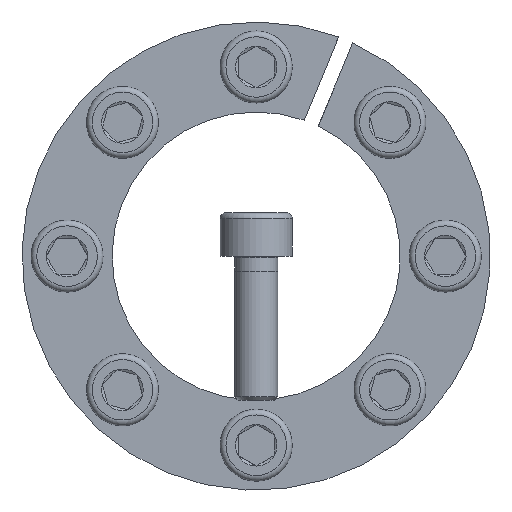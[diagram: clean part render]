
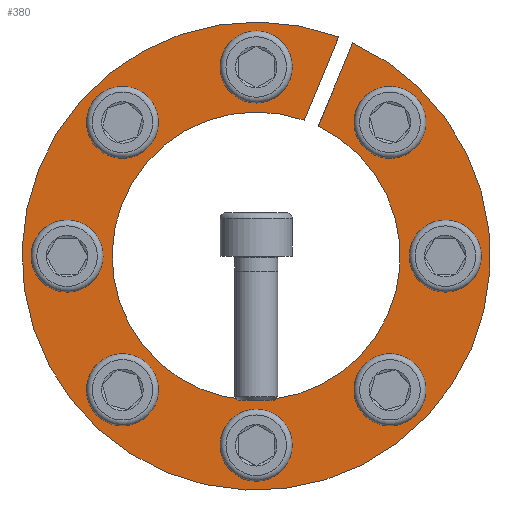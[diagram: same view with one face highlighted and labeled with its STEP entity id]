
A CAD part, front view. The second image highlights one B-rep face of the part: STEP entity #380.
In plain terms, the highlighted planar face has unit normal (0, -1, 0).
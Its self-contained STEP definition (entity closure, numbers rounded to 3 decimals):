
#380 = ADVANCED_FACE( '', ( #583, #584, #585, #586, #587, #588, #589, #590, #591 ), #592, .F. );
#583 = FACE_BOUND( '', #747, .T. );
#584 = FACE_BOUND( '', #748, .T. );
#585 = FACE_BOUND( '', #749, .T. );
#586 = FACE_BOUND( '', #750, .T. );
#587 = FACE_OUTER_BOUND( '', #751, .T. );
#588 = FACE_BOUND( '', #752, .T. );
#589 = FACE_BOUND( '', #753, .T. );
#590 = FACE_BOUND( '', #754, .T. );
#591 = FACE_BOUND( '', #755, .T. );
#592 = PLANE( '', #756 );
#747 = EDGE_LOOP( '', ( #960 ) );
#748 = EDGE_LOOP( '', ( #961 ) );
#749 = EDGE_LOOP( '', ( #962 ) );
#750 = EDGE_LOOP( '', ( #963 ) );
#751 = EDGE_LOOP( '', ( #964, #965, #966, #967 ) );
#752 = EDGE_LOOP( '', ( #968 ) );
#753 = EDGE_LOOP( '', ( #969 ) );
#754 = EDGE_LOOP( '', ( #970 ) );
#755 = EDGE_LOOP( '', ( #971 ) );
#756 = AXIS2_PLACEMENT_3D( '', #972, #973, #974 );
#960 = ORIENTED_EDGE( '', *, *, #1294, .T. );
#961 = ORIENTED_EDGE( '', *, *, #1295, .T. );
#962 = ORIENTED_EDGE( '', *, *, #1296, .T. );
#963 = ORIENTED_EDGE( '', *, *, #1297, .T. );
#964 = ORIENTED_EDGE( '', *, *, #1292, .F. );
#965 = ORIENTED_EDGE( '', *, *, #1288, .F. );
#966 = ORIENTED_EDGE( '', *, *, #1298, .T. );
#967 = ORIENTED_EDGE( '', *, *, #1299, .F. );
#968 = ORIENTED_EDGE( '', *, *, #1300, .T. );
#969 = ORIENTED_EDGE( '', *, *, #1301, .T. );
#970 = ORIENTED_EDGE( '', *, *, #1302, .T. );
#971 = ORIENTED_EDGE( '', *, *, #1303, .T. );
#972 = CARTESIAN_POINT( '', ( 0., 0., 32.5 ) );
#973 = DIRECTION( '', ( 0., 1., 0. ) );
#974 = DIRECTION( '', ( 0., 0., 1. ) );
#1288 = EDGE_CURVE( '', #1423, #1425, #1426, .T. );
#1292 = EDGE_CURVE( '', #1425, #1432, #1433, .T. );
#1294 = EDGE_CURVE( '', #1435, #1435, #1436, .T. );
#1295 = EDGE_CURVE( '', #1437, #1437, #1438, .T. );
#1296 = EDGE_CURVE( '', #1439, #1439, #1440, .T. );
#1297 = EDGE_CURVE( '', #1441, #1441, #1442, .T. );
#1298 = EDGE_CURVE( '', #1423, #1443, #1444, .T. );
#1299 = EDGE_CURVE( '', #1432, #1443, #1445, .T. );
#1300 = EDGE_CURVE( '', #1446, #1446, #1447, .T. );
#1301 = EDGE_CURVE( '', #1448, #1448, #1449, .T. );
#1302 = EDGE_CURVE( '', #1450, #1450, #1451, .T. );
#1303 = EDGE_CURVE( '', #1452, #1452, #1453, .T. );
#1423 = VERTEX_POINT( '', #1551 );
#1425 = VERTEX_POINT( '', #1554 );
#1426 = LINE( '', #1555, #1556 );
#1432 = VERTEX_POINT( '', #1564 );
#1433 = CIRCLE( '', #1565, 20. );
#1435 = VERTEX_POINT( '', #1568 );
#1436 = CIRCLE( '', #1569, 3. );
#1437 = VERTEX_POINT( '', #1570 );
#1438 = CIRCLE( '', #1571, 3. );
#1439 = VERTEX_POINT( '', #1572 );
#1440 = CIRCLE( '', #1573, 3. );
#1441 = VERTEX_POINT( '', #1574 );
#1442 = CIRCLE( '', #1575, 3. );
#1443 = VERTEX_POINT( '', #1576 );
#1444 = CIRCLE( '', #1577, 32.5 );
#1445 = LINE( '', #1578, #1579 );
#1446 = VERTEX_POINT( '', #1580 );
#1447 = CIRCLE( '', #1581, 3. );
#1448 = VERTEX_POINT( '', #1582 );
#1449 = CIRCLE( '', #1583, 3. );
#1450 = VERTEX_POINT( '', #1584 );
#1451 = CIRCLE( '', #1585, 3. );
#1452 = VERTEX_POINT( '', #1586 );
#1453 = CIRCLE( '', #1587, 3. );
#1551 = CARTESIAN_POINT( '', ( 11.446, 0., 30.418 ) );
#1554 = CARTESIAN_POINT( '', ( 6.658, 0., 18.859 ) );
#1555 = CARTESIAN_POINT( '', ( 11.453, 0., 30.434 ) );
#1556 = VECTOR( '', #1674, 1000. );
#1564 = CARTESIAN_POINT( '', ( 8.627, 0., 18.044 ) );
#1565 = AXIS2_PLACEMENT_3D( '', #1680, #1681, #1682 );
#1568 = CARTESIAN_POINT( '', ( -26.25, 0., 3. ) );
#1569 = AXIS2_PLACEMENT_3D( '', #1684, #1685, #1686 );
#1570 = CARTESIAN_POINT( '', ( -3., 0., -26.25 ) );
#1571 = AXIS2_PLACEMENT_3D( '', #1687, #1688, #1689 );
#1572 = CARTESIAN_POINT( '', ( 26.25, 0., -3. ) );
#1573 = AXIS2_PLACEMENT_3D( '', #1690, #1691, #1692 );
#1574 = CARTESIAN_POINT( '', ( 3., 0., 26.25 ) );
#1575 = AXIS2_PLACEMENT_3D( '', #1693, #1694, #1695 );
#1576 = CARTESIAN_POINT( '', ( 13.415, 0., 29.602 ) );
#1577 = AXIS2_PLACEMENT_3D( '', #1696, #1697, #1698 );
#1578 = CARTESIAN_POINT( '', ( 8.627, 0., 18.044 ) );
#1579 = VECTOR( '', #1699, 1000. );
#1580 = CARTESIAN_POINT( '', ( 20.683, 0., 16.44 ) );
#1581 = AXIS2_PLACEMENT_3D( '', #1700, #1701, #1702 );
#1582 = CARTESIAN_POINT( '', ( 16.44, 0., -20.683 ) );
#1583 = AXIS2_PLACEMENT_3D( '', #1703, #1704, #1705 );
#1584 = CARTESIAN_POINT( '', ( -20.683, 0., -16.44 ) );
#1585 = AXIS2_PLACEMENT_3D( '', #1706, #1707, #1708 );
#1586 = CARTESIAN_POINT( '', ( -16.44, 0., 20.683 ) );
#1587 = AXIS2_PLACEMENT_3D( '', #1709, #1710, #1711 );
#1674 = DIRECTION( '', ( -0.383, 0., -0.924 ) );
#1680 = CARTESIAN_POINT( '', ( 0., 0., 0. ) );
#1681 = DIRECTION( '', ( 0., -1., 0. ) );
#1682 = DIRECTION( '', ( 0., 0., -1. ) );
#1684 = CARTESIAN_POINT( '', ( -26.25, 0., 0. ) );
#1685 = DIRECTION( '', ( 0., 1., 0. ) );
#1686 = DIRECTION( '', ( 0., 0., 1. ) );
#1687 = CARTESIAN_POINT( '', ( 0., 0., -26.25 ) );
#1688 = DIRECTION( '', ( 0., 1., 0. ) );
#1689 = DIRECTION( '', ( -1., 0., 0. ) );
#1690 = CARTESIAN_POINT( '', ( 26.25, 0., 0. ) );
#1691 = DIRECTION( '', ( 0., 1., 0. ) );
#1692 = DIRECTION( '', ( 0., 0., -1. ) );
#1693 = CARTESIAN_POINT( '', ( 0., 0., 26.25 ) );
#1694 = DIRECTION( '', ( 0., 1., 0. ) );
#1695 = DIRECTION( '', ( 1., 0., 0. ) );
#1696 = CARTESIAN_POINT( '', ( 0., 0., 0. ) );
#1697 = DIRECTION( '', ( 0., -1., 0. ) );
#1698 = DIRECTION( '', ( 0., 0., -1. ) );
#1699 = DIRECTION( '', ( 0.383, 0., 0.924 ) );
#1700 = CARTESIAN_POINT( '', ( 18.562, 0., 18.562 ) );
#1701 = DIRECTION( '', ( 0., 1., 0. ) );
#1702 = DIRECTION( '', ( 0.707, 0., -0.707 ) );
#1703 = CARTESIAN_POINT( '', ( 18.562, 0., -18.562 ) );
#1704 = DIRECTION( '', ( 0., 1., 0. ) );
#1705 = DIRECTION( '', ( -0.707, 0., -0.707 ) );
#1706 = CARTESIAN_POINT( '', ( -18.562, 0., -18.562 ) );
#1707 = DIRECTION( '', ( 0., 1., 0. ) );
#1708 = DIRECTION( '', ( -0.707, 0., 0.707 ) );
#1709 = CARTESIAN_POINT( '', ( -18.562, 0., 18.562 ) );
#1710 = DIRECTION( '', ( 0., 1., 0. ) );
#1711 = DIRECTION( '', ( 0.707, 0., 0.707 ) );
